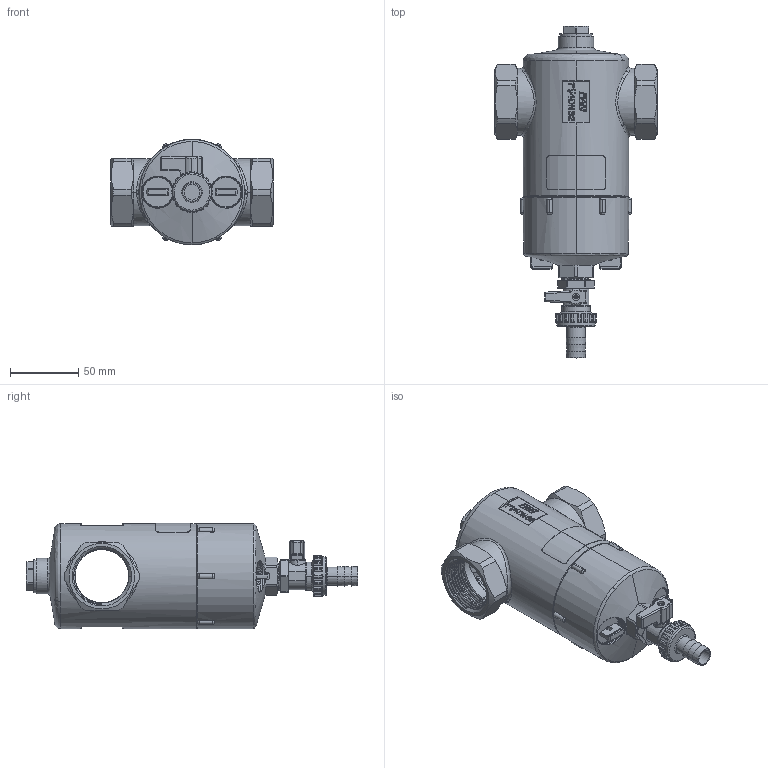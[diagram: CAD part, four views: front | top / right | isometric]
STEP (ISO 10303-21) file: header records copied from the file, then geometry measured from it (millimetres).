
FILE_DESCRIPTION (( 'STEP AP214' ), '1' );
FILE_NAME ('FAR213.stp', '2022-05-06T09:23:02', ( '' ), ( '' ), 'SwSTEP 2.0', 'SolidWorks 2021', '' );
FILE_SCHEMA (( 'AUTOMOTIVE_DESIGN' ));
Length unit declared in the file: millimetre
Products named in the file (13): 200lemB; 8350 635; 542mnm_F; FAR213; 1441trm_giallo; 8350 172; 3447 12; 581mnm_F; 4627asb; 227lem; 1500trm_giallo; 3812asb; Loctite 243_12
Assembly tree (13 placements, depth 3):
  FAR213
    1441trm_giallo
    8350 635
    3812asb
      542mnm_F
      8350 172
    3447 12
    Loctite 243_12
    1500trm_giallo
    200lemB
    4627asb  x2
      581mnm_F
      227lem
Bounding box: 119 x 242.9 x 77.25 mm (x, y, z)
Volume: 215965.6 mm3; surface area: 140161.8 mm2
Topology: 14 solids, 14 shells, 1532 faces, 4027 edges, 2573 vertices
Faces by surface type: cylinder 581, plane 447, bspline 373, cone 131
Entity records: 86819 total; most frequent: CARTESIAN_POINT 54114, ORIENTED_EDGE 7592, DIRECTION 5436, EDGE_CURVE 3796, VERTEX_POINT 2427, AXIS2_PLACEMENT_3D 1896, VECTOR 1644, LINE 1644
